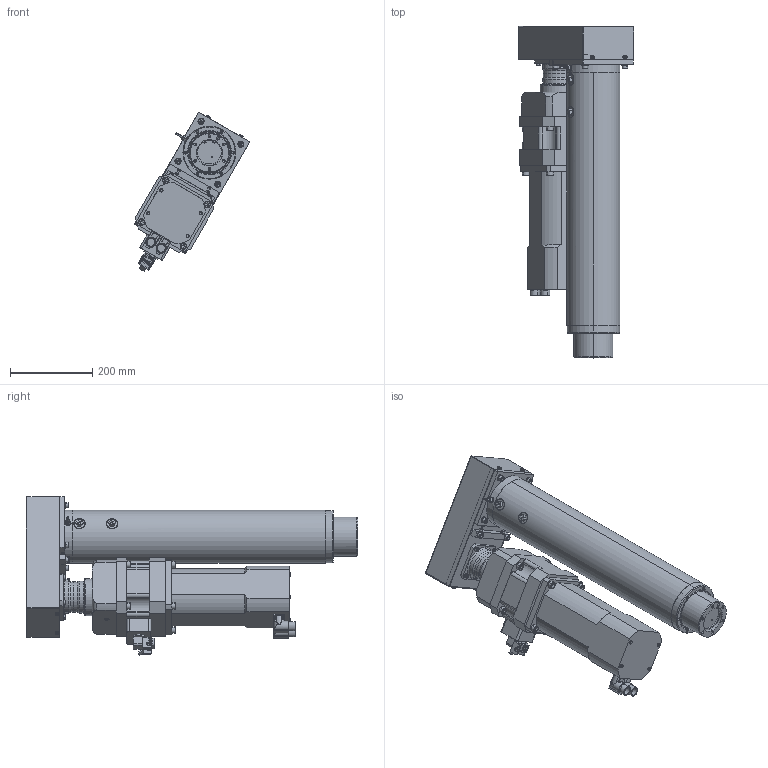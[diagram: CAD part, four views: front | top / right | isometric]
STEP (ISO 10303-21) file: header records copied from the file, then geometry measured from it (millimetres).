
FILE_DESCRIPTION (( 'STEP AP203' ), '1' );
FILE_NAME ('LN5P0300-035-025S.STEP', '2017-04-20T07:00:29', ( 'Holtz' ), ( '' ), 'SwSTEP 2.0', 'SolidWorks 2016', '' );
FILE_SCHEMA (( 'CONFIG_CONTROL_DESIGN' ));
Length unit declared in the file: millimetre
Products named in the file (1): LN5P0300-035-025S
Bounding box: 280.28 x 807.5 x 386.61 mm (x, y, z)
Volume: 15684158.8 mm3; surface area: 1744746.2 mm2
Topology: 49 solids, 49 shells, 1718 faces, 3994 edges, 2401 vertices
Faces by surface type: plane 715, cylinder 621, cone 286, torus 88, bspline 6, sphere 2
Entity records: 49631 total; most frequent: CARTESIAN_POINT 10024, DIRECTION 8782, ORIENTED_EDGE 7688, EDGE_CURVE 3844, AXIS2_PLACEMENT_3D 3383, VERTEX_POINT 2401, EDGE_LOOP 2027, LINE 2016
